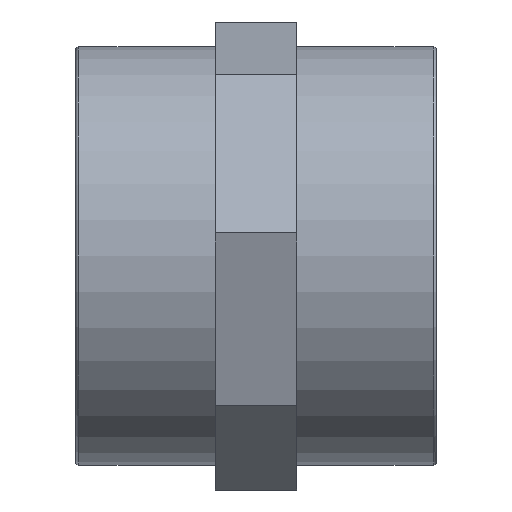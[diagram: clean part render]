
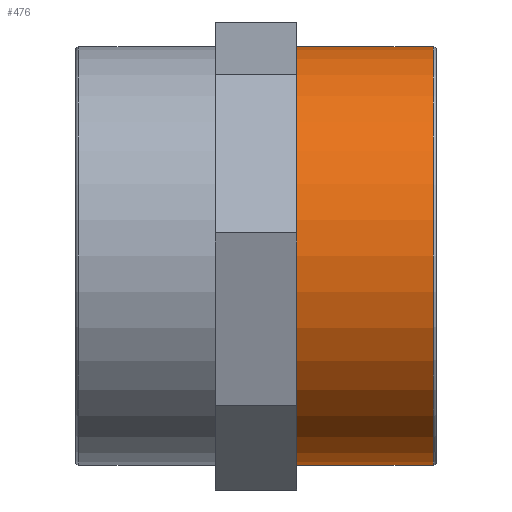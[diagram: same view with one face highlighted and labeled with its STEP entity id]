
A CAD part, front view. The second image highlights one B-rep face of the part: STEP entity #476.
In plain terms, the highlighted cylindrical face has radius 64.5 mm (diameter 129 mm), a full revolution.
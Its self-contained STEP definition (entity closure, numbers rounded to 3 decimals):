
#46=CYLINDRICAL_SURFACE('',#514,64.5);
#55=FACE_BOUND('',#135,.T.);
#72=CIRCLE('',#513,64.5);
#73=CIRCLE('',#515,64.5);
#99=FACE_OUTER_BOUND('',#134,.T.);
#134=EDGE_LOOP('',(#378));
#135=EDGE_LOOP('',(#379));
#238=VERTEX_POINT('',#716);
#239=VERTEX_POINT('',#719);
#292=EDGE_CURVE('',#238,#238,#72,.T.);
#293=EDGE_CURVE('',#239,#239,#73,.T.);
#378=ORIENTED_EDGE('',*,*,#293,.F.);
#379=ORIENTED_EDGE('',*,*,#292,.T.);
#476=ADVANCED_FACE('',(#99,#55),#46,.T.);
#513=AXIS2_PLACEMENT_3D('',#717,#595,#596);
#514=AXIS2_PLACEMENT_3D('',#718,#597,#598);
#515=AXIS2_PLACEMENT_3D('',#720,#599,#600);
#595=DIRECTION('center_axis',(1.,0.,0.));
#596=DIRECTION('ref_axis',(0.,-1.,0.));
#597=DIRECTION('center_axis',(-1.,0.,0.));
#598=DIRECTION('ref_axis',(0.,-1.,0.));
#599=DIRECTION('center_axis',(1.,0.,0.));
#600=DIRECTION('ref_axis',(0.,1.,0.));
#716=CARTESIAN_POINT('',(68.15,64.5,0.));
#717=CARTESIAN_POINT('Origin',(68.15,0.,0.));
#718=CARTESIAN_POINT('Origin',(55.65,0.,0.));
#719=CARTESIAN_POINT('',(110.3,-64.5,0.));
#720=CARTESIAN_POINT('Origin',(110.3,0.,0.));
